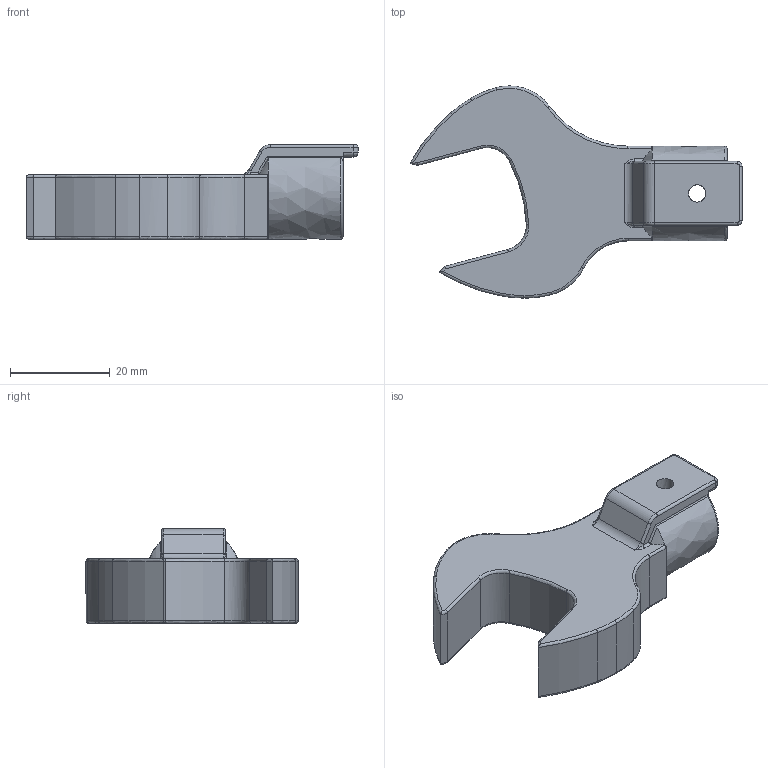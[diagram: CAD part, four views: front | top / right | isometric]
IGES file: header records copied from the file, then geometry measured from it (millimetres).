
Global section: file name: SH12DX21; native system: Autodesk Inventor 2016; preprocessor: unknown; author: Q532; date: 20151029.190729; units: millimetre
Bounding box: 66.64 x 42.59 x 19 mm (x, y, z)
Volume: 16658.2 mm3; surface area: 6132.4 mm2
Topology: 1 solids, 1 shells, 128 faces, 321 edges, 187 vertices
Faces by surface type: bspline 128
